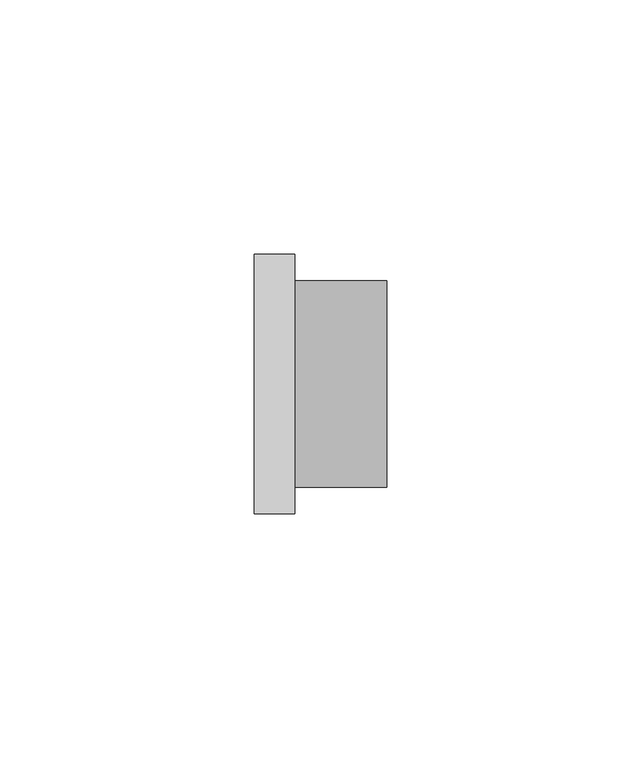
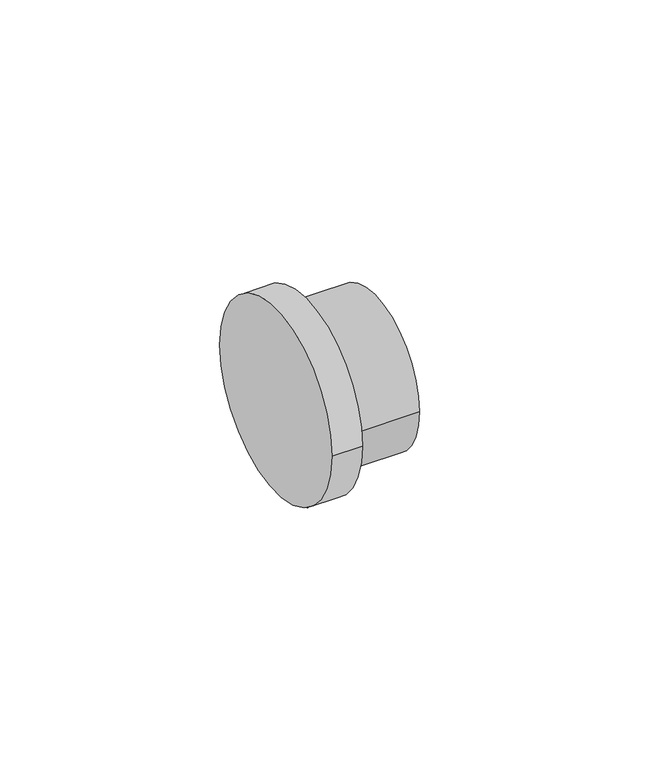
"""IFC4 building model written with IfcOpenShell, lengths in millimetres: pipe fitting geometry, NIRON RED termofusion casquillo : Estándar."""

from ifc_helpers import new_model, si_unit, point, frame, origin, origin_2d, place, context, project, spatial, circle_curve, trimmed, segment, composite_curve, outline, extrude, source, transform, mapped, element, save


def pipe_fitting_1d9cf829(model_context):
    return source(origin(), model_context, "Body", "SweptSolid", [
        extrude(outline(composite_curve([segment(trimmed(circle_curve(origin_2d(), 20.3), [point((20.3, 0.0))], [point((-20.3, 0.0))], False, "CARTESIAN"), True, "CONTINUOUS"), segment(trimmed(circle_curve(origin_2d(), 20.3), [point((-20.3, 0.0))], [point((20.3, 0.0))], False, "CARTESIAN"), True, "CONTINUOUS")], self_intersect=False)), frame((8.0, 0.0, 0.0), z_axis=(1.0, 0.0, 0.0), x_axis=(0.0, 1.0, 0.0)), (0.0, 0.0, 1.0), 18.0),
        extrude(outline(composite_curve([segment(trimmed(circle_curve(origin_2d(), 25.5), [point((-25.5, 0.0))], [point((25.5, 0.0))], False, "CARTESIAN"), True, "CONTINUOUS"), segment(trimmed(circle_curve(origin_2d(), 25.5), [point((25.5, 0.0))], [point((-25.5, 0.0))], False, "CARTESIAN"), True, "CONTINUOUS")], self_intersect=False)), frame((0.0, 0.0, 0.0), z_axis=(1.0, 0.0, 0.0), x_axis=(0.0, 1.0, 0.0)), (0.0, 0.0, 1.0), 8.0),
    ])


if __name__ == "__main__":
    model = new_model("IFC4")
    model_context = context("Model", 3, world=origin())
    ifc_project = project(units=[si_unit("LENGTHUNIT", "METRE", prefix="MILLI")], contexts=[model_context])
    site = spatial("IfcSite", under=ifc_project)
    building = spatial("IfcBuilding", under=site)
    placement = place(None, origin())
    pipe_fitting_shape = pipe_fitting_1d9cf829(model_context)
    element("IfcPipeFitting", 1, ObjectType="NIRON RED termofusion casquillo : Estándar", at=placement, inside=building, context=model_context, shape_type="MappedRepresentation", body=[
        mapped(pipe_fitting_shape, transform((0.0, 0.0, 0.0), x_axis=(1.0, 0.0, 0.0), y_axis=(0.0, 1.0, 0.0), z_axis=(0.0, 0.0, 1.0))),
    ])
    save(model, "model.ifc")
